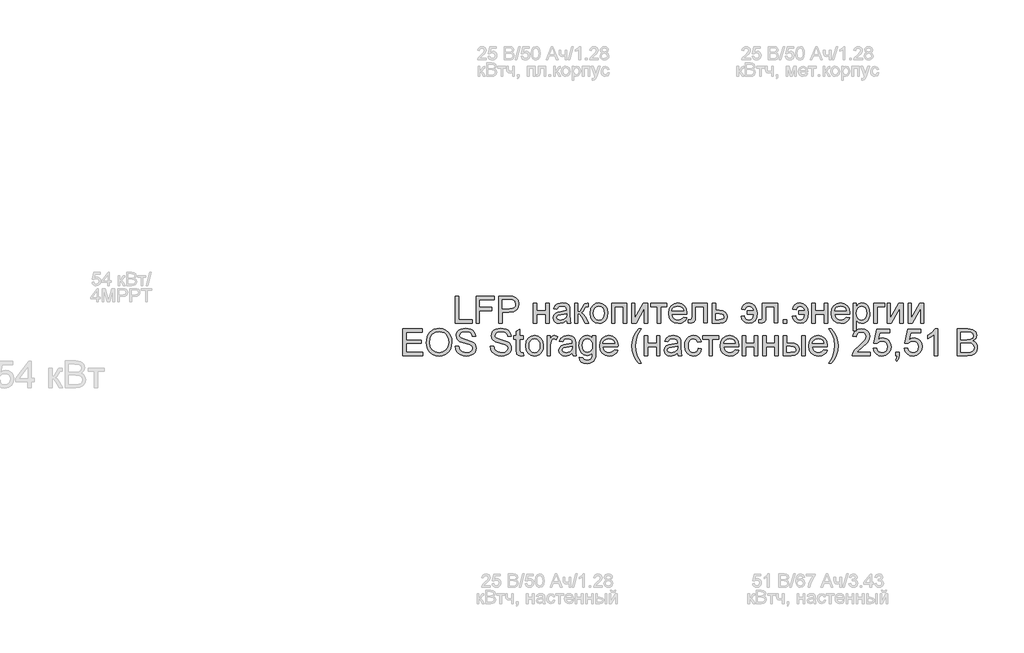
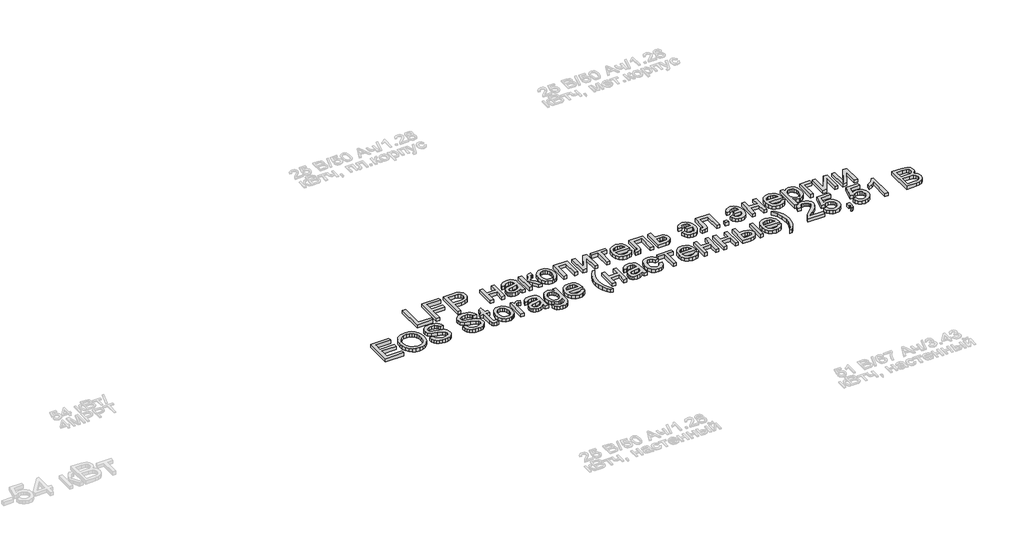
# One storey, part 15 of 26: 1 proxy.
"""IFC4 building model written with IfcOpenShell, lengths in millimetres."""

import ifcopenshell
import ifcopenshell.guid

model = None  # the IFC model being written
_history = None  # IfcOwnerHistory: only IFC2X3 demands one
_inside = {}  # id of a spatial element -> (the spatial element, [elements in it])
_under = {}  # id of a project, library or spatial element -> (it, [spatial elements below it])
_declared = {}  # id of a project -> (the project, [libraries it declares])
_typed = {}  # id of a type object -> (the type object, [elements of that type])
_made_of = {}  # id of a material, layer set ... -> (it, [elements and type objects made of it])


def new_model(schema):
    """Start an empty IFC model of exactly this schema.

    Asked for "IFC4X3", IfcOpenShell would pick the latest addendum, in which some entities
    have other attributes; the version numbers below select the first issue.
    IFC2X3 requires an IfcOwnerHistory on every rooted entity: one is made here for all.
    """
    global model, _history
    if schema == "IFC4X3":
        model = ifcopenshell.file(schema_version=(4, 3, 0, 0))
    else:
        model = ifcopenshell.file(schema=schema)
    _inside.clear()
    _under.clear()
    _declared.clear()
    _typed.clear()
    _made_of.clear()
    _history = None
    if model.schema == "IFC2X3":
        org = make("IfcOrganization", Name="unknown")
        user = make(
            "IfcPersonAndOrganization",
            ThePerson=make("IfcPerson", FamilyName="unknown"),
            TheOrganization=org,
        )
        app = make(
            "IfcApplication",
            ApplicationDeveloper=org,
            Version="unknown",
            ApplicationFullName="unknown",
            ApplicationIdentifier="unknown",
        )
        _history = make(
            "IfcOwnerHistory",
            OwningUser=user,
            OwningApplication=app,
            ChangeAction="ADDED",
            CreationDate=0,
        )
    return model


def make(cls, **values):
    """One entity of the class cls with the attributes given. An attribute that is None is left unset."""
    return model.create_entity(
        cls, **{name: value for name, value in values.items() if value is not None}
    )


def rooted(cls, **values):
    """An entity with a GlobalId (a new one), such as an element, a storey or a relation."""
    return make(cls, GlobalId=ifcopenshell.guid.new(), OwnerHistory=_history, **values)


def si_unit(unit_type, name, prefix=None):
    """IfcSIUnit, for example si_unit("LENGTHUNIT", "METRE", prefix="MILLI")."""
    return make("IfcSIUnit", UnitType=unit_type, Prefix=prefix, Name=name)


def assignment(units):
    """IfcUnitAssignment: the units of a project."""
    return None if units is None else make("IfcUnitAssignment", Units=units)


def point(xyz):
    """IfcCartesianPoint."""
    return None if xyz is None else make("IfcCartesianPoint", Coordinates=xyz)


def direction(xyz):
    """IfcDirection."""
    return None if xyz is None else make("IfcDirection", DirectionRatios=xyz)


def frame(location, z_axis=None, x_axis=None):
    """IfcAxis2Placement3D, a coordinate frame: its origin and axes. An axis left out is left unset."""
    return make(
        "IfcAxis2Placement3D",
        Location=point(location),
        Axis=direction(z_axis),
        RefDirection=direction(x_axis),
    )


def origin():
    """The frame at (0, 0, 0) with its axes left unset."""
    return frame((0.0, 0.0, 0.0))


def origin_with_axes():
    """The frame at (0, 0, 0) with the z axis (0, 0, 1) and the x axis (1, 0, 0) written out."""
    return frame((0.0, 0.0, 0.0), z_axis=(0.0, 0.0, 1.0), x_axis=(1.0, 0.0, 0.0))


def place(relative_to, where):
    """IfcLocalPlacement: puts the frame where relative to a parent placement (None: the world)."""
    return make(
        "IfcLocalPlacement", PlacementRelTo=relative_to, RelativePlacement=where
    )


def context(
    kind, dimensions, precision=None, world=None, true_north=None, identifier=None
):
    """IfcGeometricRepresentationContext, for example the 3D "Model" context."""
    return make(
        "IfcGeometricRepresentationContext",
        ContextIdentifier=identifier,
        ContextType=kind,
        CoordinateSpaceDimension=dimensions,
        Precision=precision,
        WorldCoordinateSystem=world,
        TrueNorth=true_north,
    )


def project(units=None, contexts=None):
    """IfcProject with its units and contexts."""
    return rooted(
        "IfcProject",
        Name="project",
        RepresentationContexts=contexts,
        UnitsInContext=assignment(units),
    )


def spatial(cls, under=None, at=None, **own):
    """A site, building, storey or space (cls), placed at a placement, below another one or the project."""
    s = rooted(cls, ObjectPlacement=at, **own)
    if under is not None:
        _under.setdefault(under.id(), (under, []))[1].append(s)
    return s


def polyline(points):
    """IfcPolyline through the points."""
    return make("IfcPolyline", Points=[point(p) for p in points])


def outline(outer, holes=None, kind="AREA"):
    """IfcArbitraryClosedProfileDef: a profile drawn as a closed curve; with holes, ...WithVoids."""
    if holes is None:
        return make("IfcArbitraryClosedProfileDef", ProfileType=kind, OuterCurve=outer)
    return make(
        "IfcArbitraryProfileDefWithVoids",
        ProfileType=kind,
        OuterCurve=outer,
        InnerCurves=holes,
    )


def extrude(swept, where, along, depth):
    """IfcExtrudedAreaSolid: the profile swept, set in the frame where, extruded along a direction by depth."""
    return make(
        "IfcExtrudedAreaSolid",
        SweptArea=swept,
        Position=where,
        ExtrudedDirection=direction(along),
        Depth=depth,
    )


def shape(context_of_items, identifier, shape_type, items):
    """IfcShapeRepresentation: the items that make up one representation, for example the "Body"."""
    return make(
        "IfcShapeRepresentation",
        ContextOfItems=context_of_items,
        RepresentationIdentifier=identifier,
        RepresentationType=shape_type,
        Items=items,
    )


def made_of(thing, what):
    """Note that an element or type object is made of a material, layer set ...; save() writes the relation."""
    if what is not None:
        _made_of.setdefault(what.id(), (what, []))[1].append(thing)
    return thing


def element(
    cls,
    number,
    at=None,
    inside=None,
    cuts=None,
    type_object=None,
    material=None,
    context=None,
    identifier="Body",
    shape_type=None,
    held_by="IfcProductDefinitionShape",
    body=None,
    shapes=None,
    **own,
):
    """One element of the class cls, such as IfcWall. Its Tag is "e" and its number.

    at: its placement. inside: the storey or other place that contains it. cuts: it is an
    opening in that element (IfcRelVoidsElement). A single representation is given by context,
    identifier, shape_type and body (its items); several are given by shapes. held_by: the class
    of the entity that holds the representations. save() writes the other relations.
    """
    e = rooted(cls, Tag="e%d" % number, ObjectPlacement=at, **own)
    if body is not None:
        shapes = [shape(context, identifier, shape_type, body)]
    if shapes is not None:
        e.Representation = make(held_by, Representations=shapes)
    if inside is not None:
        _inside.setdefault(inside.id(), (inside, []))[1].append(e)
    if cuts is not None:
        rooted(
            "IfcRelVoidsElement", RelatingBuildingElement=cuts, RelatedOpeningElement=e
        )
    if type_object is not None:
        _typed.setdefault(type_object.id(), (type_object, []))[1].append(e)
    return made_of(e, material)


def aggregate(whole, parts):
    """IfcRelAggregates: a whole, such as a stair, and the parts it consists of."""
    return rooted("IfcRelAggregates", RelatingObject=whole, RelatedObjects=parts)


def save(model, path):
    """Write the relations noted so far, then the file.

    IfcRelAggregates (storeys below a building ...), IfcRelContainedInSpatialStructure (elements
    in a storey), IfcRelDefinesByType, IfcRelAssociatesMaterial and IfcRelDeclares: one each for
    every whole, place, type object, material and project.
    """
    for whole, parts in _under.values():
        aggregate(whole, parts)
    for where, things in _inside.values():
        rooted(
            "IfcRelContainedInSpatialStructure",
            RelatedElements=things,
            RelatingStructure=where,
        )
    for kind, things in _typed.values():
        rooted("IfcRelDefinesByType", RelatedObjects=things, RelatingType=kind)
    for what, things in _made_of.values():
        rooted("IfcRelAssociatesMaterial", RelatedObjects=things, RelatingMaterial=what)
    for by, libraries in _declared.values():
        rooted("IfcRelDeclares", RelatingContext=by, RelatedDefinitions=libraries)
    model.write(path)


model = new_model("IFC4")

# Units and contexts
model_context = context("Model", 3, world=origin())
ifc_project = project(units=[si_unit("LENGTHUNIT", "METRE", prefix="MILLI")], contexts=[model_context])

# Site, building, storey
site = spatial("IfcSite", under=ifc_project)
building = spatial("IfcBuilding", under=site)
storey = spatial("IfcBuildingStorey", under=building, Name="Этаж 01", Elevation=0.0)

# Proxy
placement = place(None, origin())
element("IfcBuildingElementProxy", 1, Name="150 мм Arial", ObjectType="150 мм Arial", at=placement, inside=storey, context=model_context, shape_type="SweptSolid", body=[
    extrude(outline(polyline([(14247.5390032, -16871.2706711), (14247.5390032, -16720.5862059), (14266.3745613, -16720.5862059), (14266.3745613, -16852.4351129), (14341.7167939, -16852.4351129), (14341.7167939, -16871.2706711), (14247.5390032, -16871.2706711)])), origin_with_axes(), (0.0, 0.0, 1.0), 20.0),
    extrude(outline(polyline([(14362.9067968, -16871.2706711), (14362.9067968, -16720.5862059), (14464.1479219, -16720.5862059), (14464.1479219, -16739.421764), (14381.742355, -16739.421764), (14381.742355, -16784.1562146), (14452.3756981, -16784.1562146), (14452.3756981, -16802.9917728), (14381.742355, -16802.9917728), (14381.742355, -16871.2706711), (14362.9067968, -16871.2706711)])), origin_with_axes(), (0.0, 0.0, 1.0), 20.0),
    extrude(outline(polyline([(14490.0468144, -16871.2706711), (14490.0468144, -16720.5862059), (14545.8913012, -16720.5862059), (14568.4056793, -16722.0209456), (14586.7078086, -16729.0658858), (14598.5720029, -16743.6340129), (14603.0601633, -16764.1802223), (14600.0297354, -16781.9397256), (14590.9384515, -16796.7377789), (14573.9377048, -16806.725775), (14547.1788882, -16810.0551071), (14508.8823725, -16810.0551071), (14508.8823725, -16871.2706711), (14490.0468144, -16871.2706711)]), holes=[polyline([(14508.8823725, -16791.2195489), (14548.2825342, -16791.2195489), (14564.9843768, -16789.4905036), (14576.0208366, -16784.3033674), (14582.173663, -16775.9800373), (14584.2246051, -16764.8424099), (14579.3869569, -16749.2442133), (14566.676634, -16740.709351), (14547.8410758, -16739.421764), (14508.8823725, -16739.421764), (14508.8823725, -16791.2195489)])]), origin_with_axes(), (0.0, 0.0, 1.0), 20.0),
    extrude(outline(polyline([(14685.4657302, -16760.6117669), (14704.3012884, -16760.6117669), (14704.3012884, -16802.9917728), (14753.7446285, -16802.9917728), (14753.7446285, -16760.6117669), (14772.5801867, -16760.6117669), (14772.5801867, -16871.2706711), (14753.7446285, -16871.2706711), (14753.7446285, -16821.8273309), (14704.3012884, -16821.8273309), (14704.3012884, -16871.2706711), (14685.4657302, -16871.2706711), (14685.4657302, -16760.6117669)])), origin_with_axes(), (0.0, 0.0, 1.0), 20.0),
    extrude(outline(polyline([(14871.466867, -16857.1440025), (14853.2015259, -16869.9095077), (14833.0231985, -16873.6251159), (14817.2824476, -16871.3902327), (14805.6711721, -16864.6855834), (14798.5112688, -16854.5044492), (14796.1246344, -16841.8401115), (14799.7298779, -16826.9408907), (14809.2028393, -16816.12516), (14822.3914088, -16809.9447425), (14838.6885812, -16807.1120511), (14871.3565024, -16800.637328), (14871.466867, -16796.4434733), (14870.1700829, -16788.0373697), (14866.2797308, -16782.5375338), (14857.5793217, -16778.4540437), (14845.4576099, -16777.0928803), (14826.4013226, -16780.716518), (14817.3146373, -16793.5739937), (14798.4790791, -16791.2195489), (14806.6276653, -16772.8254492), (14823.0352023, -16762.0465067), (14847.8856311, -16758.2573222), (14870.7127089, -16761.6050483), (14883.6069728, -16770.0111519), (14889.3827201, -16782.7950512), (14890.3024251, -16799.2761646), (14890.3024251, -16822.7102477), (14891.2589183, -16855.4333512), (14895.0113147, -16871.2706711), (14876.1757565, -16871.2706711), (14871.466867, -16857.1440025)]), holes=[polyline([(14871.466867, -16819.4728862), (14841.0798142, -16825.2486335), (14824.8746123, -16828.302054), (14817.5353665, -16833.268461), (14814.9601925, -16840.5157363), (14820.5703929, -16850.7060676), (14837.0331122, -16854.7895577), (14856.0893996, -16850.2830033), (14868.3766582, -16839.3753021), (14871.3565024, -16824.8071751), (14871.466867, -16819.4728862)])]), origin_with_axes(), (0.0, 0.0, 1.0), 20.0),
    extrude(outline(polyline([(14916.2013176, -16760.6117669), (14935.0368757, -16760.6117669), (14935.0368757, -16807.7006623), (14947.6552282, -16804.316148), (14957.9927122, -16784.597673), (14966.5827568, -16767.5831307), (14974.1611259, -16762.0465067), (14987.9383066, -16760.6117669), (14991.5435502, -16760.6117669), (14991.5435502, -16779.5576897), (14986.4667787, -16779.4473251), (14977.2697288, -16781.4338879), (14970.7950057, -16793.8315111), (14963.1982425, -16807.2408098), (14952.5480587, -16813.8075034), (14964.4306472, -16821.1375522), (14976.0925064, -16836.5793989), (14996.2524397, -16871.2706711), (14974.8417076, -16871.2706711), (14955.0864445, -16837.3151629), (14945.1536306, -16822.949371), (14935.0368757, -16819.4728862), (14935.0368757, -16871.2706711), (14916.2013176, -16871.2706711), (14916.2013176, -16760.6117669)])), origin_with_axes(), (0.0, 0.0, 1.0), 20.0),
    extrude(outline(polyline([(15003.315774, -16815.941219), (15007.3900671, -16789.2605773), (15019.6129464, -16770.5077926), (15034.7145023, -16761.3199398), (15052.7959024, -16758.2573222), (15072.5833552, -16761.9867259), (15088.3884854, -16773.1749371), (15098.7489621, -16790.9390389), (15102.2024543, -16814.3961146), (15100.6757441, -16833.4248108), (15096.0956132, -16847.9101644), (15088.595419, -16858.7580847), (15078.3085188, -16866.8744812), (15066.090238, -16871.9374572), (15052.7959024, -16873.6251159), (15032.7693263, -16869.9095077), (15016.9825902, -16858.7626832), (15006.7324781, -16840.6261009), (15003.315774, -16815.941219)]), holes=[polyline([(15022.1513322, -16815.9044308), (15024.331033, -16832.9511628), (15030.8701355, -16845.0958671), (15040.7109789, -16852.3661351), (15052.7959024, -16854.7895577), (15064.8256436, -16852.3523395), (15074.6480929, -16845.0406848), (15081.1871954, -16832.7350321), (15083.3668962, -16815.3158196), (15081.1733998, -16798.7657284), (15074.5929106, -16786.7865709), (15064.7566658, -16779.516303), (15052.7959024, -16777.0928803), (15040.7109789, -16779.5071059), (15030.8701355, -16786.7497827), (15024.331033, -16798.8668959), (15022.1513322, -16815.9044308)])]), origin_with_axes(), (0.0, 0.0, 1.0), 20.0),
    extrude(outline(polyline([(15123.3924573, -16760.6117669), (15208.152469, -16760.6117669), (15208.152469, -16871.2706711), (15189.3169108, -16871.2706711), (15189.3169108, -16779.4473251), (15142.2280154, -16779.4473251), (15142.2280154, -16871.2706711), (15123.3924573, -16871.2706711), (15123.3924573, -16760.6117669)])), origin_with_axes(), (0.0, 0.0, 1.0), 20.0),
    extrude(outline(polyline([(15236.4058062, -16760.6117669), (15255.2413643, -16760.6117669), (15255.2413643, -16845.0038966), (15301.5209193, -16760.6117669), (15325.8747074, -16760.6117669), (15325.8747074, -16871.2706711), (15307.0391493, -16871.2706711), (15307.0391493, -16787.3935762), (15261.0538999, -16871.2706711), (15236.4058062, -16871.2706711), (15236.4058062, -16760.6117669)])), origin_with_axes(), (0.0, 0.0, 1.0), 20.0),
    extrude(outline(polyline([(15344.7102656, -16760.6117669), (15434.1791668, -16760.6117669), (15434.1791668, -16779.4473251), (15398.8624953, -16779.4473251), (15398.8624953, -16871.2706711), (15380.0269371, -16871.2706711), (15380.0269371, -16779.4473251), (15344.7102656, -16779.4473251), (15344.7102656, -16760.6117669)])), origin_with_axes(), (0.0, 0.0, 1.0), 20.0),
    extrude(outline(polyline([(15528.1362284, -16838.3084443), (15546.6039045, -16840.6628891), (15539.9498389, -16854.5780256), (15529.3318448, -16864.979889), (15514.9890456, -16871.4638091), (15497.1605644, -16873.6251159), (15475.0600535, -16869.8957121), (15458.0547083, -16858.7075009), (15447.2113865, -16840.7870493), (15443.5969459, -16816.860924), (15447.2481747, -16792.1300569), (15458.2018611, -16773.6347896), (15474.9772801, -16762.101689), (15496.0937066, -16758.2573222), (15516.552544, -16762.092492), (15532.9003002, -16773.5980014), (15543.6194618, -16792.0564805), (15547.1925157, -16816.7505594), (15547.0821511, -16821.8273309), (15462.432504, -16821.8273309), (15465.6928582, -16835.9264084), (15473.2666288, -16846.2914836), (15484.1973226, -16852.6650392), (15497.5284464, -16854.7895577), (15515.9961225, -16850.8532203), (15528.1362284, -16838.3084443)]), holes=[polyline([(15462.432504, -16802.9917728), (15528.3569576, -16802.9917728), (15525.8093747, -16793.0405648), (15520.8153767, -16785.9220482), (15509.8340991, -16779.3001723), (15496.0201302, -16777.0928803), (15483.3236028, -16778.8541154), (15472.8251704, -16784.1378205), (15465.5273113, -16792.3737787), (15462.432504, -16802.9917728)])]), origin_with_axes(), (0.0, 0.0, 1.0), 20.0),
    extrude(outline(polyline([(15575.4458529, -16760.6117669), (15660.2058646, -16760.6117669), (15660.2058646, -16871.1603065), (15641.3703065, -16871.1603065), (15641.3703065, -16779.4473251), (15594.2814111, -16779.4473251), (15594.2814111, -16832.2383914), (15593.0122182, -16856.5921795), (15586.0408544, -16866.8744812), (15569.559741, -16871.2706711), (15554.25585, -16870.3141779), (15554.25585, -16852.4351129), (15562.6803477, -16852.4351129), (15571.1968159, -16851.2762846), (15574.5997244, -16847.5974647), (15575.4458529, -16831.1715336), (15575.4458529, -16760.6117669)])), origin_with_axes(), (0.0, 0.0, 1.0), 20.0),
    extrude(outline(polyline([(15688.4592019, -16760.6117669), (15707.29476, -16760.6117669), (15707.29476, -16800.637328), (15728.9997977, -16800.637328), (15747.8169618, -16802.9963713), (15761.7412953, -16810.0735012), (15770.349734, -16821.2985006), (15773.2192135, -16836.1011523), (15770.7773968, -16849.5794289), (15763.4519466, -16860.9515811), (15750.7554192, -16868.6908986), (15732.2003711, -16871.2706711), (15688.4592019, -16871.2706711), (15688.4592019, -16760.6117669)]), holes=[polyline([(15707.29476, -16852.4351129), (15724.8795194, -16852.4351129), (15747.5962326, -16848.4803815), (15752.6867997, -16843.4174055), (15754.3836554, -16836.1379405), (15749.3620662, -16824.5496577), (15741.2916549, -16820.742079), (15727.1235996, -16819.4728862), (15707.29476, -16819.4728862), (15707.29476, -16852.4351129)])]), origin_with_axes(), (0.0, 0.0, 1.0), 20.0),
    extrude(outline(polyline([(15886.2325625, -16802.9917728), (15921.549234, -16802.9917728), (15918.6475648, -16792.5577197), (15913.0327658, -16784.2849733), (15905.0727191, -16778.8909036), (15895.1353067, -16777.0928803), (15879.8682039, -16781.8017699), (15872.1058939, -16795.9284385), (15853.2703357, -16793.5739937), (15857.661927, -16779.4335295), (15866.2013878, -16768.1349537), (15878.4564568, -16760.7267301), (15893.9948726, -16758.2573222), (15913.2213053, -16762.101689), (15927.9319866, -16773.6347896), (15937.2715908, -16791.9001306), (15940.3847922, -16815.941219), (15937.8142167, -16839.8719428), (15928.925268, -16858.6891068), (15914.3985277, -16870.5533012), (15894.9145776, -16873.6251159), (15878.212735, -16870.8705994), (15865.0425595, -16862.6070501), (15855.8087215, -16849.8461434), (15850.9158909, -16833.5995548), (15869.7514491, -16831.24511), (15872.7266947, -16841.5458059), (15877.8632471, -16848.9034458), (15885.1611062, -16853.3180297), (15894.620272, -16854.7895577), (15905.2612587, -16852.7294185), (15913.2718891, -16846.549001), (15918.6889515, -16836.2483051), (15921.549234, -16821.8273309), (15886.2325625, -16821.8273309), (15886.2325625, -16802.9917728)])), origin_with_axes(), (0.0, 0.0, 1.0), 20.0),
    extrude(outline(polyline([(15970.9925742, -16760.6117669), (16055.7525858, -16760.6117669), (16055.7525858, -16871.1603065), (16036.9170277, -16871.1603065), (16036.9170277, -16779.4473251), (15989.8281323, -16779.4473251), (15989.8281323, -16832.2383914), (15988.5589394, -16856.5921795), (15981.5875756, -16866.8744812), (15965.1064622, -16871.2706711), (15949.8025712, -16870.3141779), (15949.8025712, -16852.4351129), (15958.2270689, -16852.4351129), (15966.7435371, -16851.2762846), (15970.1464456, -16847.5974647), (15970.9925742, -16831.1715336), (15970.9925742, -16760.6117669)])), origin_with_axes(), (0.0, 0.0, 1.0), 20.0),
    extrude(outline(polyline([(16088.7148126, -16871.2706711), (16088.7148126, -16852.4351129), (16107.5503708, -16852.4351129), (16107.5503708, -16871.2706711), (16088.7148126, -16871.2706711)])), origin_with_axes(), (0.0, 0.0, 1.0), 20.0),
    extrude(outline(polyline([(16173.4748243, -16802.9917728), (16208.7914958, -16802.9917728), (16205.8898266, -16792.5577197), (16200.2750276, -16784.2849733), (16192.314981, -16778.8909036), (16182.3775686, -16777.0928803), (16167.1104658, -16781.8017699), (16159.3481557, -16795.9284385), (16140.5125975, -16793.5739937), (16144.9041888, -16779.4335295), (16153.4436497, -16768.1349537), (16165.6987186, -16760.7267301), (16181.2371344, -16758.2573222), (16200.4635672, -16762.101689), (16215.1742485, -16773.6347896), (16224.5138526, -16791.9001306), (16227.627054, -16815.941219), (16225.0564785, -16839.8719428), (16216.1675298, -16858.6891068), (16201.6407896, -16870.5533012), (16182.1568394, -16873.6251159), (16165.4549968, -16870.8705994), (16152.2848214, -16862.6070501), (16143.0509833, -16849.8461434), (16138.1581528, -16833.5995548), (16156.9937109, -16831.24511), (16159.9689566, -16841.5458059), (16165.1055089, -16848.9034458), (16172.403368, -16853.3180297), (16181.8625338, -16854.7895577), (16192.5035205, -16852.7294185), (16200.5141509, -16846.549001), (16205.9312133, -16836.2483051), (16208.7914958, -16821.8273309), (16173.4748243, -16821.8273309), (16173.4748243, -16802.9917728)])), origin_with_axes(), (0.0, 0.0, 1.0), 20.0),
    extrude(outline(polyline([(16248.8170569, -16760.6117669), (16267.6526151, -16760.6117669), (16267.6526151, -16802.9917728), (16317.0959552, -16802.9917728), (16317.0959552, -16760.6117669), (16335.9315134, -16760.6117669), (16335.9315134, -16871.2706711), (16317.0959552, -16871.2706711), (16317.0959552, -16821.8273309), (16267.6526151, -16821.8273309), (16267.6526151, -16871.2706711), (16248.8170569, -16871.2706711), (16248.8170569, -16760.6117669)])), origin_with_axes(), (0.0, 0.0, 1.0), 20.0),
    extrude(outline(polyline([(16441.6607988, -16838.3084443), (16460.1284749, -16840.6628891), (16453.4744094, -16854.5780256), (16442.8564153, -16864.979889), (16428.513616, -16871.4638091), (16410.6851348, -16873.6251159), (16388.5846239, -16869.8957121), (16371.5792787, -16858.7075009), (16360.7359569, -16840.7870493), (16357.1215163, -16816.860924), (16360.7727451, -16792.1300569), (16371.7264315, -16773.6347896), (16388.5018505, -16762.101689), (16409.618277, -16758.2573222), (16430.0771145, -16762.092492), (16446.4248706, -16773.5980014), (16457.1440323, -16792.0564805), (16460.7170861, -16816.7505594), (16460.6067215, -16821.8273309), (16375.9570744, -16821.8273309), (16379.2174286, -16835.9264084), (16386.7911992, -16846.2914836), (16397.721893, -16852.6650392), (16411.0530168, -16854.7895577), (16429.5206929, -16850.8532203), (16441.6607988, -16838.3084443)]), holes=[polyline([(16375.9570744, -16802.9917728), (16441.881528, -16802.9917728), (16439.3339452, -16793.0405648), (16434.3399471, -16785.9220482), (16423.3586695, -16779.3001723), (16409.5447006, -16777.0928803), (16396.8481732, -16778.8541154), (16386.3497408, -16784.1378205), (16379.0518817, -16792.3737787), (16375.9570744, -16802.9917728)])]), origin_with_axes(), (0.0, 0.0, 1.0), 20.0),
    extrude(outline(polyline([(16479.5526443, -16913.6506769), (16479.5526443, -16760.6117669), (16498.3882024, -16760.6117669), (16498.3882024, -16779.0794431), (16511.4112251, -16763.4628524), (16528.9959844, -16758.2573222), (16541.7338985, -16760.078338), (16552.8715259, -16765.5413857), (16561.9398171, -16774.3153713), (16568.4697225, -16786.069201), (16573.7304351, -16815.0950904), (16572.2451115, -16831.2037233), (16567.7891408, -16845.6109019), (16560.5050773, -16857.5854609), (16550.5354753, -16866.3962346), (16538.9241998, -16871.8178955), (16526.7151161, -16873.6251159), (16510.3259732, -16868.7874676), (16498.3882024, -16856.5553913), (16498.3882024, -16913.6506769), (16479.5526443, -16913.6506769)]), holes=[polyline([(16498.3882024, -16816.8241358), (16500.425349, -16833.7099194), (16506.5367886, -16845.5189314), (16515.554496, -16852.4719011), (16526.3104459, -16854.7895577), (16537.2411397, -16852.3891277), (16546.4887733, -16845.1878376), (16552.793351, -16832.9465642), (16554.8948769, -16815.4261842), (16552.8439348, -16798.6323711), (16546.6911084, -16786.6578122), (16537.6871966, -16779.4841133), (16527.0829981, -16777.0928803), (16516.4374128, -16779.6358646), (16507.0886116, -16787.2648175), (16500.5633047, -16799.7406156), (16498.3882024, -16816.8241358)])]), origin_with_axes(), (0.0, 0.0, 1.0), 20.0),
    extrude(outline(polyline([(16594.920438, -16760.6117669), (16656.136002, -16760.6117669), (16656.136002, -16779.4473251), (16613.7559961, -16779.4473251), (16613.7559961, -16871.2706711), (16594.920438, -16871.2706711), (16594.920438, -16760.6117669)])), origin_with_axes(), (0.0, 0.0, 1.0), 20.0),
    extrude(outline(polyline([(16670.2626706, -16760.6117669), (16689.0982287, -16760.6117669), (16689.0982287, -16845.0038966), (16735.3777837, -16760.6117669), (16759.7315718, -16760.6117669), (16759.7315718, -16871.2706711), (16740.8960137, -16871.2706711), (16740.8960137, -16787.3935762), (16694.9107643, -16871.2706711), (16670.2626706, -16871.2706711), (16670.2626706, -16760.6117669)])), origin_with_axes(), (0.0, 0.0, 1.0), 20.0),
    extrude(outline(polyline([(16787.984909, -16760.6117669), (16806.8204672, -16760.6117669), (16806.8204672, -16845.0038966), (16853.1000222, -16760.6117669), (16877.4538103, -16760.6117669), (16877.4538103, -16871.2706711), (16858.6182521, -16871.2706711), (16858.6182521, -16787.3935762), (16812.6330027, -16871.2706711), (16787.984909, -16871.2706711), (16787.984909, -16760.6117669)])), origin_with_axes(), (0.0, 0.0, 1.0), 20.0),
    extrude(outline(polyline([(13952.0561846, -17054.2328978), (13952.0561846, -16903.5484326), (14060.360644, -16903.5484326), (14060.360644, -16922.3839908), (13970.8917428, -16922.3839908), (13970.8917428, -16967.1184414), (14055.6517545, -16967.1184414), (14055.6517545, -16985.9539995), (13970.8917428, -16985.9539995), (13970.8917428, -17035.3973397), (14062.7150888, -17035.3973397), (14062.7150888, -17054.2328978), (13952.0561846, -17054.2328978)])), origin_with_axes(), (0.0, 0.0, 1.0), 20.0),
    extrude(outline(polyline([(14083.9050917, -16980.877228), (14088.9266809, -16947.5563163), (14095.2036675, -16933.9377847), (14103.9914486, -16922.3472026), (14126.9932704, -16906.4822915), (14155.8260218, -16901.1939879), (14175.5904819, -16903.6771913), (14193.3131971, -16911.1268017), (14208.0284769, -16923.0185872), (14218.7706311, -16938.828316), (14225.3373247, -16957.7926328), (14227.5262226, -16979.1481826), (14225.2223616, -17000.788841), (14218.3107786, -17020.0198723), (14207.1731512, -17035.8571922), (14192.191157, -17047.3167163), (14174.6201932, -17054.269686), (14155.7156572, -17056.5873426), (14135.6476943, -17054.0259642), (14117.8238117, -17046.3418291), (14103.14532, -17034.2293144), (14092.5135304, -17018.3827974), (14086.0572014, -17000.149646), (14083.9050917, -16980.877228)]), holes=[polyline([(14102.7406498, -16981.061169), (14106.5068418, -17004.6332078), (14117.8054176, -17022.5950463), (14134.7877702, -17033.9625999), (14155.6052926, -17037.7517845), (14176.7263176, -17033.9258117), (14193.7362614, -17022.4478935), (14204.9520637, -17003.9342321), (14208.6906645, -16979.0010298), (14207.0903778, -16962.3267784), (14202.2895177, -16947.9150012), (14194.4122445, -16936.1289818), (14183.5827183, -16927.3320036), (14170.5183089, -16921.8551604), (14155.9363864, -16920.029546), (14135.6752855, -16923.5474176), (14118.449211, -16934.1010323), (14106.6677901, -16952.8768097), (14102.7406498, -16981.061169)])]), origin_with_axes(), (0.0, 0.0, 1.0), 20.0),
    extrude(outline(polyline([(14246.3617808, -17002.4351129), (14265.1973389, -17002.4351129), (14271.2673918, -17021.2890652), (14286.0930362, -17033.2084418), (14308.6809907, -17037.7517845), (14328.3626775, -17034.3120878), (14341.0730004, -17024.8575205), (14345.2484611, -17012.220774), (14342.1214641, -17000.4669443), (14329.3191707, -16991.9136879), (14301.8935679, -16984.7215949), (14272.3710378, -16975.4325745), (14256.3497769, -16961.4162705), (14251.0706703, -16942.6910769), (14252.7031467, -16931.6592156), (14257.6005757, -16921.3723153), (14265.6341988, -16912.653512), (14276.6752572, -16906.3259417), (14304.5975006, -16901.1939879), (14334.3959422, -16906.565065), (14345.8186782, -16913.1961379), (14354.26157, -16922.3472026), (14359.6050559, -16933.4480418), (14361.7295745, -16945.9284385), (14342.8940163, -16945.9284385), (14339.4359255, -16934.6896435), (14332.2254384, -16926.5778455), (14320.9590523, -16921.6666209), (14305.3332646, -16920.029546), (14289.3395949, -16921.6482268), (14278.3675143, -16926.5042691), (14272.0215499, -16933.6503769), (14269.9062285, -16942.1392539), (14271.4053476, -16949.3773322), (14275.902705, -16955.1990647), (14306.6576398, -16965.7204898), (14339.9877485, -16975.1750571), (14350.7253043, -16982.0084651), (14358.2163014, -16990.4421599), (14362.6170898, -17000.3841708), (14364.0840192, -17011.7425274), (14362.3963606, -17023.3538029), (14357.3333846, -17034.2752996), (14349.102025, -17043.6746846), (14337.9092153, -17050.7196248), (14324.4493328, -17055.1204132), (14309.4167547, -17056.5873426), (14290.9628742, -17055.00545), (14275.7739463, -17050.2597723), (14263.6752272, -17042.3319153), (14254.4919729, -17031.203485), (14248.5966639, -17017.6470334), (14246.3617808, -17002.4351129)])), origin_with_axes(), (0.0, 0.0, 1.0), 20.0),
    extrude(outline(polyline([(14444.1351414, -17002.4351129), (14462.9706995, -17002.4351129), (14469.0407524, -17021.2890652), (14483.8663969, -17033.2084418), (14506.4543514, -17037.7517845), (14526.1360381, -17034.3120878), (14538.846361, -17024.8575205), (14543.0218217, -17012.220774), (14539.8948247, -17000.4669443), (14527.0925313, -16991.9136879), (14499.6669285, -16984.7215949), (14470.1443984, -16975.4325745), (14454.1231375, -16961.4162705), (14448.8440309, -16942.6910769), (14450.4765073, -16931.6592156), (14455.3739363, -16921.3723153), (14463.4075594, -16912.653512), (14474.4486178, -16906.3259417), (14502.3708612, -16901.1939879), (14532.1693028, -16906.565065), (14543.5920388, -16913.1961379), (14552.0349306, -16922.3472026), (14557.3784165, -16933.4480418), (14559.5029351, -16945.9284385), (14540.6673769, -16945.9284385), (14537.2092862, -16934.6896435), (14529.998799, -16926.5778455), (14518.7324129, -16921.6666209), (14503.1066252, -16920.029546), (14487.1129555, -16921.6482268), (14476.140875, -16926.5042691), (14469.7949105, -16933.6503769), (14467.6795891, -16942.1392539), (14469.1787082, -16949.3773322), (14473.6760656, -16955.1990647), (14504.4310004, -16965.7204898), (14537.7611091, -16975.1750571), (14548.4986649, -16982.0084651), (14555.989662, -16990.4421599), (14560.3904504, -17000.3841708), (14561.8573798, -17011.7425274), (14560.1697212, -17023.3538029), (14555.1067452, -17034.2752996), (14546.8753856, -17043.6746846), (14535.6825759, -17050.7196248), (14522.2226934, -17055.1204132), (14507.1901153, -17056.5873426), (14488.7362348, -17055.00545), (14473.5473069, -17050.2597723), (14461.4485878, -17042.3319153), (14452.2653335, -17031.203485), (14446.3700245, -17017.6470334), (14444.1351414, -17002.4351129)])), origin_with_axes(), (0.0, 0.0, 1.0), 20.0),
    extrude(outline(polyline([(14627.7818334, -17038.5243367), (14630.1362781, -17054.7847208), (14616.0463977, -17056.5873426), (14600.2642601, -17053.4603457), (14592.3915854, -17045.2565772), (14590.1107171, -17023.8826332), (14590.1107171, -16962.4095519), (14575.9840484, -16962.4095519), (14575.9840484, -16943.5739937), (14590.1107171, -16943.5739937), (14590.1107171, -16916.6818199), (14608.9462752, -16905.6085718), (14608.9462752, -16943.5739937), (14627.7818334, -16943.5739937), (14627.7818334, -16962.4095519), (14608.9462752, -16962.4095519), (14608.9462752, -17023.3308103), (14609.9395566, -17033.0428949), (14613.1585241, -17036.4825916), (14619.5780649, -17037.7517845), (14627.7818334, -17038.5243367)])), origin_with_axes(), (0.0, 0.0, 1.0), 20.0),
    extrude(outline(polyline([(14641.908502, -16998.9034458), (14645.9827951, -16972.2228041), (14658.2056744, -16953.4700194), (14673.3072303, -16944.2821665), (14691.3886303, -16941.2195489), (14711.1760831, -16944.9489527), (14726.9812134, -16956.1371638), (14737.3416901, -16973.9012657), (14740.7951823, -16997.3583414), (14739.268472, -17016.3870376), (14734.6883412, -17030.8723912), (14727.188147, -17041.7203115), (14716.9012467, -17049.836708), (14704.6829659, -17054.899684), (14691.3886303, -17056.5873426), (14671.3620542, -17052.8717345), (14655.5753181, -17041.72491), (14645.325206, -17023.5883277), (14641.908502, -16998.9034458)]), holes=[polyline([(14660.7440601, -16998.8666576), (14662.923761, -17015.9133895), (14669.4628634, -17028.0580939), (14679.3037068, -17035.3283618), (14691.3886303, -17037.7517845), (14703.4183716, -17035.3145662), (14713.2408208, -17028.0029116), (14719.7799233, -17015.6972589), (14721.9596241, -16998.2780464), (14719.7661277, -16981.7279551), (14713.1856385, -16969.7487977), (14703.3493937, -16962.4785297), (14691.3886303, -16960.0551071), (14679.3037068, -16962.4693327), (14669.4628634, -16969.7120095), (14662.923761, -16981.8291227), (14660.7440601, -16998.8666576)])]), origin_with_axes(), (0.0, 0.0, 1.0), 20.0),
    extrude(outline(polyline([(14761.9851852, -17054.2328978), (14761.9851852, -16943.5739937), (14778.4662986, -16943.5739937), (14778.4662986, -16959.9447425), (14790.164946, -16944.8615807), (14801.9371699, -16941.2195489), (14820.8463044, -16947.0320845), (14814.5555223, -16963.917868), (14801.3117705, -16960.0551071), (14790.6615867, -16963.7707152), (14783.8741639, -16974.0714111), (14780.8207434, -16996.0707544), (14780.8207434, -17054.2328978), (14761.9851852, -17054.2328978)])), origin_with_axes(), (0.0, 0.0, 1.0), 20.0),
    extrude(outline(polyline([(14903.2518714, -17040.1062292), (14884.9865303, -17052.8717345), (14864.8082029, -17056.5873426), (14849.067452, -17054.3524595), (14837.4561765, -17047.6478101), (14830.2962732, -17037.4666759), (14827.9096387, -17024.8023382), (14831.5148823, -17009.9031174), (14840.9878437, -16999.0873868), (14854.1764132, -16992.9069693), (14870.4735856, -16990.0742779), (14903.1415068, -16983.5995548), (14903.2518714, -16979.4057), (14901.9550873, -16970.9995964), (14898.0647352, -16965.4997606), (14889.364326, -16961.4162705), (14877.2426143, -16960.0551071), (14858.1863269, -16963.6787447), (14849.0996417, -16976.5362205), (14830.2640835, -16974.1817757), (14838.4126697, -16955.7876759), (14854.8202067, -16945.0087335), (14879.6706355, -16941.2195489), (14902.4977133, -16944.5672751), (14915.3919772, -16952.9733787), (14921.1677245, -16965.757278), (14922.0874295, -16982.2383914), (14922.0874295, -17005.6724745), (14923.0439227, -17038.395578), (14926.796319, -17054.2328978), (14907.9607609, -17054.2328978), (14903.2518714, -17040.1062292)]), holes=[polyline([(14903.2518714, -17002.4351129), (14872.8648186, -17008.2108603), (14856.6596167, -17011.2642808), (14849.3203709, -17016.2306877), (14846.7451969, -17023.4779631), (14852.3553973, -17033.6682943), (14868.8181166, -17037.7517845), (14887.874404, -17033.24523), (14900.1616626, -17022.3375289), (14903.1415068, -17007.7694019), (14903.2518714, -17002.4351129)])]), origin_with_axes(), (0.0, 0.0, 1.0), 20.0),
    extrude(outline(polyline([(14943.2774324, -17063.6506769), (14962.1129906, -17066.0051217), (14968.2198317, -17075.9379356), (14986.5035669, -17080.1317903), (15005.7805834, -17075.3861126), (15014.9776333, -17062.0687843), (15016.2652203, -17040.1062292), (15003.0030743, -17050.7012307), (14986.8346607, -17054.2328978), (14967.4150898, -17050.1218166), (14952.9343348, -17037.7885727), (14943.9258244, -17019.7071726), (14940.9229877, -16998.3516228), (14946.3124589, -16969.1601865), (14952.9067437, -16957.3097877), (14961.9106555, -16948.5036124), (14973.0160932, -16943.0405648), (14985.9149557, -16941.2195489), (15002.7179658, -16945.3398273), (15016.2652203, -16957.7006623), (15016.2652203, -16943.5739937), (15035.1007784, -16943.5739937), (15035.1007784, -17039.1129478), (15033.8131914, -17061.172072), (15029.9504305, -17075.6988123), (15023.2963649, -17085.332722), (15013.634864, -17092.7133545), (15001.1774599, -17097.40385), (14986.1356849, -17098.9673485), (14968.6107063, -17096.764655), (14954.810533, -17090.1565747), (14945.9583725, -17079.1247133), (14943.2774324, -17063.6506769)]), holes=[polyline([(14959.7585458, -16997.0640358), (14961.7681012, -17014.340694), (14967.7967674, -17026.2186839), (14976.8604601, -17033.1026758), (14987.9750948, -17035.3973397), (14999.0069562, -17033.1164713), (15008.1166341, -17026.2738662), (15014.2280737, -17014.5476276), (15016.2652203, -16997.6158588), (15014.1682929, -16981.2864967), (15007.8775108, -16969.5280685), (14998.6344757, -16962.4233474), (14987.6807892, -16960.0551071), (14976.9248394, -16962.3865592), (14967.907132, -16969.3809157), (14961.7956924, -16980.9646), (14959.7585458, -16997.0640358)])]), origin_with_axes(), (0.0, 0.0, 1.0), 20.0),
    extrude(outline(polyline([(15140.8300638, -17021.2706711), (15159.29774, -17023.6251159), (15152.6436744, -17037.5402523), (15142.0256803, -17047.9421157), (15127.682881, -17054.4260359), (15109.8543998, -17056.5873426), (15087.753889, -17052.8579389), (15070.7485438, -17041.6697277), (15059.9052219, -17023.749276), (15056.2907813, -16999.8231508), (15059.9420101, -16975.0922836), (15070.8956966, -16956.5970163), (15087.6711155, -16945.0639158), (15108.7875421, -16941.2195489), (15129.2463795, -16945.0547187), (15145.5941357, -16956.5602281), (15156.3132973, -16975.0187072), (15159.8863512, -16999.7127862), (15159.7759866, -17004.7895577), (15075.1263395, -17004.7895577), (15078.3866937, -17018.8886352), (15085.9604643, -17029.2537104), (15096.891158, -17035.6272659), (15110.2222818, -17037.7517845), (15128.689958, -17033.8154471), (15140.8300638, -17021.2706711)]), holes=[polyline([(15075.1263395, -16985.9539995), (15141.050793, -16985.9539995), (15138.5032102, -16976.0027916), (15133.5092121, -16968.884275), (15122.5279346, -16962.2623991), (15108.7139657, -16960.0551071), (15096.0174383, -16961.8163421), (15085.5190059, -16967.1000473), (15078.2211468, -16975.3360055), (15075.1263395, -16985.9539995)])]), origin_with_axes(), (0.0, 0.0, 1.0), 20.0),
    extrude(outline(polyline([(15275.2541449, -17096.6129037), (15260.6584267, -17076.1310736), (15248.5091238, -17052.4302761), (15240.3145524, -17026.6601423), (15237.5830286, -16999.9703036), (15239.6247736, -16976.5638116), (15245.7500089, -16954.1689952), (15257.9085088, -16928.8035316), (15275.2541449, -16903.5484326), (15289.3808135, -16903.5484326), (15271.7592659, -16933.3836624), (15261.1642645, -16962.2991873), (15256.4185867, -17000.0806682), (15258.4787259, -17024.2275226), (15264.6591434, -17048.36518), (15274.9598393, -17072.4936404), (15289.3808135, -17096.6129037), (15275.2541449, -17096.6129037)])), origin_with_axes(), (0.0, 0.0, 1.0), 20.0),
    extrude(outline(polyline([(15308.2163716, -16943.5739937), (15327.0519298, -16943.5739937), (15327.0519298, -16985.9539995), (15376.4952699, -16985.9539995), (15376.4952699, -16943.5739937), (15395.3308281, -16943.5739937), (15395.3308281, -17054.2328978), (15376.4952699, -17054.2328978), (15376.4952699, -17004.7895577), (15327.0519298, -17004.7895577), (15327.0519298, -17054.2328978), (15308.2163716, -17054.2328978), (15308.2163716, -16943.5739937)])), origin_with_axes(), (0.0, 0.0, 1.0), 20.0),
    extrude(outline(polyline([(15494.2175084, -17040.1062292), (15475.9521673, -17052.8717345), (15455.7738399, -17056.5873426), (15440.033089, -17054.3524595), (15428.4218136, -17047.6478101), (15421.2619102, -17037.4666759), (15418.8752758, -17024.8023382), (15422.4805193, -17009.9031174), (15431.9534807, -16999.0873868), (15445.1420502, -16992.9069693), (15461.4392226, -16990.0742779), (15494.1071438, -16983.5995548), (15494.2175084, -16979.4057), (15492.9207244, -16970.9995964), (15489.0303723, -16965.4997606), (15480.3299631, -16961.4162705), (15468.2082513, -16960.0551071), (15449.151964, -16963.6787447), (15440.0652787, -16976.5362205), (15421.2297206, -16974.1817757), (15429.3783068, -16955.7876759), (15445.7858437, -16945.0087335), (15470.6362725, -16941.2195489), (15493.4633503, -16944.5672751), (15506.3576142, -16952.9733787), (15512.1333616, -16965.757278), (15513.0530666, -16982.2383914), (15513.0530666, -17005.6724745), (15514.0095597, -17038.395578), (15517.7619561, -17054.2328978), (15498.9263979, -17054.2328978), (15494.2175084, -17040.1062292)]), holes=[polyline([(15494.2175084, -17002.4351129), (15463.8304556, -17008.2108603), (15447.6252537, -17011.2642808), (15440.2860079, -17016.2306877), (15437.7108339, -17023.4779631), (15443.3210344, -17033.6682943), (15459.7837537, -17037.7517845), (15478.840041, -17033.24523), (15491.1272996, -17022.3375289), (15494.1071438, -17007.7694019), (15494.2175084, -17002.4351129)])]), origin_with_axes(), (0.0, 0.0, 1.0), 20.0),
    extrude(outline(polyline([(15609.5853021, -17014.2073368), (15628.4208602, -17016.5617815), (15623.1693448, -17033.3142079), (15613.3009102, -17045.9739471), (15599.7444587, -17053.9339937), (15583.4288922, -17056.5873426), (15563.3931191, -17052.88553), (15547.7259446, -17041.7800923), (15537.6137883, -17023.7584731), (15534.2430695, -16999.308116), (15535.6824078, -16982.5464926), (15540.0004227, -16968.0197523), (15547.2660921, -16956.2889152), (15557.5483939, -16947.9150012), (15569.8494481, -16942.893412), (15583.1713748, -16941.2195489), (15599.0868697, -16943.5188114), (15611.8109882, -16950.4165988), (15620.9390602, -16961.5450292), (15626.0664155, -16976.5362205), (15607.2308573, -16978.8906652), (15598.4936599, -16964.7823907), (15583.3185276, -16960.0551071), (15571.1462321, -16962.3819607), (15561.4847312, -16969.3625216), (15555.1801535, -16981.3738687), (15553.0786276, -16998.7930812), (15555.1341683, -17016.4468184), (15561.3007902, -17028.4995523), (15570.7875472, -17035.4387264), (15582.8034928, -17037.7517845), (15592.5569642, -17036.3078476), (15600.5537991, -17031.9760371), (15606.3709332, -17024.6459884), (15609.5853021, -17014.2073368)])), origin_with_axes(), (0.0, 0.0, 1.0), 20.0),
    extrude(outline(polyline([(15635.4841946, -16943.5739937), (15724.9530958, -16943.5739937), (15724.9530958, -16962.4095519), (15689.6364242, -16962.4095519), (15689.6364242, -17054.2328978), (15670.8008661, -17054.2328978), (15670.8008661, -16962.4095519), (15635.4841946, -16962.4095519), (15635.4841946, -16943.5739937)])), origin_with_axes(), (0.0, 0.0, 1.0), 20.0),
    extrude(outline(polyline([(15818.9101573, -17021.2706711), (15837.3778335, -17023.6251159), (15830.7237679, -17037.5402523), (15820.1057738, -17047.9421157), (15805.7629745, -17054.4260359), (15787.9344934, -17056.5873426), (15765.8339825, -17052.8579389), (15748.8286373, -17041.6697277), (15737.9853155, -17023.749276), (15734.3708749, -16999.8231508), (15738.0221037, -16975.0922836), (15748.9757901, -16956.5970163), (15765.751209, -16945.0639158), (15786.8676356, -16941.2195489), (15807.326473, -16945.0547187), (15823.6742292, -16956.5602281), (15834.3933908, -16975.0187072), (15837.9664447, -16999.7127862), (15837.8560801, -17004.7895577), (15753.206433, -17004.7895577), (15756.4667872, -17018.8886352), (15764.0405578, -17029.2537104), (15774.9712515, -17035.6272659), (15788.3023754, -17037.7517845), (15806.7700515, -17033.8154471), (15818.9101573, -17021.2706711)]), holes=[polyline([(15753.206433, -16985.9539995), (15819.1308865, -16985.9539995), (15816.5833037, -16976.0027916), (15811.5893056, -16968.884275), (15800.6080281, -16962.2623991), (15786.7940592, -16960.0551071), (15774.0975318, -16961.8163421), (15763.5990994, -16967.1000473), (15756.3012403, -16975.3360055), (15753.206433, -16985.9539995)])]), origin_with_axes(), (0.0, 0.0, 1.0), 20.0),
    extrude(outline(polyline([(15856.8020029, -16943.5739937), (15875.637561, -16943.5739937), (15875.637561, -16985.9539995), (15925.0809012, -16985.9539995), (15925.0809012, -16943.5739937), (15943.9164593, -16943.5739937), (15943.9164593, -17054.2328978), (15925.0809012, -17054.2328978), (15925.0809012, -17004.7895577), (15875.637561, -17004.7895577), (15875.637561, -17054.2328978), (15856.8020029, -17054.2328978), (15856.8020029, -16943.5739937)])), origin_with_axes(), (0.0, 0.0, 1.0), 20.0),
    extrude(outline(polyline([(15972.1697965, -16943.5739937), (15991.0053547, -16943.5739937), (15991.0053547, -16985.9539995), (16040.4486948, -16985.9539995), (16040.4486948, -16943.5739937), (16059.284253, -16943.5739937), (16059.284253, -17054.2328978), (16040.4486948, -17054.2328978), (16040.4486948, -17004.7895577), (15991.0053547, -17004.7895577), (15991.0053547, -17054.2328978), (15972.1697965, -17054.2328978), (15972.1697965, -16943.5739937)])), origin_with_axes(), (0.0, 0.0, 1.0), 20.0),
    extrude(outline(polyline([(16191.1331601, -16943.5739937), (16209.9687182, -16943.5739937), (16209.9687182, -17054.2328978), (16191.1331601, -17054.2328978), (16191.1331601, -16943.5739937)])), origin_with_axes(), (0.0, 0.0, 1.0), 20.0),
    extrude(outline(polyline([(16087.5375902, -16943.5739937), (16106.3731484, -16943.5739937), (16106.3731484, -16983.5995548), (16129.6600787, -16983.5995548), (16149.7878223, -16985.9585981), (16164.7008387, -16993.035728), (16173.9300783, -17004.2607273), (16177.0064915, -17019.0633791), (16174.426719, -17032.5416557), (16166.6874015, -17043.9138079), (16153.2827013, -17051.6531254), (16133.7067806, -17054.2328978), (16087.5375902, -17054.2328978), (16087.5375902, -16943.5739937)]), holes=[polyline([(16106.3731484, -17035.3973397), (16125.7237413, -17035.3973397), (16150.7029288, -17031.4426082), (16156.3039322, -17026.3796323), (16158.1709333, -17019.1001673), (16152.6343093, -17007.5118845), (16143.7545576, -17003.7043058), (16128.1885507, -17002.4351129), (16106.3731484, -17002.4351129), (16106.3731484, -17035.3973397)])]), origin_with_axes(), (0.0, 0.0, 1.0), 20.0),
    extrude(outline(polyline([(16315.6980036, -17021.2706711), (16334.1656798, -17023.6251159), (16327.5116142, -17037.5402523), (16316.8936201, -17047.9421157), (16302.5508208, -17054.4260359), (16284.7223396, -17056.5873426), (16262.6218288, -17052.8579389), (16245.6164836, -17041.6697277), (16234.7731617, -17023.749276), (16231.1587211, -16999.8231508), (16234.8099499, -16975.0922836), (16245.7636364, -16956.5970163), (16262.5390553, -16945.0639158), (16283.6554819, -16941.2195489), (16304.1143193, -16945.0547187), (16320.4620755, -16956.5602281), (16331.1812371, -16975.0187072), (16334.754291, -16999.7127862), (16334.6439264, -17004.7895577), (16249.9942793, -17004.7895577), (16253.2546335, -17018.8886352), (16260.8284041, -17029.2537104), (16271.7590978, -17035.6272659), (16285.0902216, -17037.7517845), (16303.5578978, -17033.8154471), (16315.6980036, -17021.2706711)]), holes=[polyline([(16249.9942793, -16985.9539995), (16315.9187328, -16985.9539995), (16313.37115, -16976.0027916), (16308.3771519, -16968.884275), (16297.3958744, -16962.2623991), (16283.5819055, -16960.0551071), (16270.8853781, -16961.8163421), (16260.3869457, -16967.1000473), (16253.0890866, -16975.3360055), (16249.9942793, -16985.9539995)])]), origin_with_axes(), (0.0, 0.0, 1.0), 20.0),
    extrude(outline(polyline([(16358.2987387, -17096.6129037), (16344.1720701, -17096.6129037), (16358.5930443, -17072.4936404), (16368.8937401, -17048.36518), (16375.0741577, -17024.2275226), (16377.1342968, -17000.0806682), (16372.3886191, -16962.6302811), (16361.9039822, -16933.677968), (16344.1720701, -16903.5484326), (16358.2987387, -16903.5484326), (16375.6443747, -16928.8035316), (16387.8028747, -16954.1689952), (16393.9281099, -16976.5638116), (16395.969855, -16999.9703036), (16393.2245356, -17026.6601423), (16384.9885774, -17052.4302761), (16372.825479, -17076.1310736), (16358.2987387, -17096.6129037)])), origin_with_axes(), (0.0, 0.0, 1.0), 20.0),
    extrude(outline(polyline([(16574.9076574, -17035.3973397), (16574.9076574, -17054.2328978), (16476.0209771, -17054.2328978), (16478.0443281, -17041.2466634), (16489.4854582, -17021.252277), (16513.066694, -16999.4184806), (16545.5874624, -16968.0381464), (16551.6851065, -16957.2224157), (16553.7176545, -16946.7009907), (16551.8000696, -16937.269416), (16546.0473149, -16929.428931), (16537.2043515, -16924.1452258), (16526.0161403, -16922.3839908), (16514.2669091, -16924.1038391), (16505.1388371, -16929.2633841), (16499.2481266, -16937.4579555), (16497.2109801, -16948.2828832), (16478.3754219, -16945.9284385), (16482.9417572, -16927.7090827), (16492.8147902, -16914.4009515), (16507.4794862, -16906.2615623), (16526.4208105, -16903.5484326), (16545.5000904, -16906.565065), (16560.1371953, -16915.6149621), (16569.4492083, -16929.1346254), (16572.5532127, -16945.5605565), (16569.2054865, -16963.4212273), (16558.0770562, -16981.8889035), (16531.0929118, -17007.6958255), (16509.4246623, -17025.8140137), (16500.9265882, -17035.3973397), (16574.9076574, -17035.3973397)])), origin_with_axes(), (0.0, 0.0, 1.0), 20.0),
    extrude(outline(polyline([(16593.7432156, -17014.2073368), (16612.5787737, -17011.852892), (16616.0368645, -17023.1606648), (16622.0701292, -17031.2586673), (16630.6509768, -17036.1285052), (16641.751816, -17037.7517845), (16655.2530852, -17035.4939087), (16665.3698401, -17028.7202815), (16671.6882133, -17018.212652), (16673.7943377, -17004.7527695), (16671.8215705, -16992.0792348), (16665.9032689, -16982.3855442), (16655.9934477, -16976.2327178), (16642.0461216, -16974.1817757), (16625.5098259, -16977.4559255), (16614.9332185, -16985.9539995), (16596.0976604, -16983.5995548), (16612.5787737, -16905.9028774), (16685.5665616, -16905.9028774), (16685.5665616, -16924.7384355), (16627.8090883, -16924.7384355), (16619.7524726, -16966.2355246), (16633.2077566, -16958.0685443), (16647.3068341, -16955.3462175), (16664.905389, -16958.7215349), (16679.5149028, -16968.8474868), (16689.3511476, -16984.2801365), (16692.6298959, -17003.5755471), (16689.6776429, -17022.4111053), (16680.8208838, -17038.5243367), (16663.8615239, -17052.0715911), (16641.6782396, -17056.5873426), (16623.1783737, -17053.6856734), (16608.4401013, -17044.9806657), (16598.337142, -17031.483995), (16593.7432156, -17014.2073368)])), origin_with_axes(), (0.0, 0.0, 1.0), 20.0),
    extrude(outline(polyline([(16718.5287884, -17054.2328978), (16718.5287884, -17035.3973397), (16737.3643465, -17035.3973397), (16737.3643465, -17054.2328978), (16733.9798322, -17073.4915203), (16723.2376779, -17084.8406798), (16718.5287884, -17077.7773455), (16725.4449699, -17069.6471534), (16727.9097792, -17054.2328978), (16718.5287884, -17054.2328978)])), origin_with_axes(), (0.0, 0.0, 1.0), 20.0),
    extrude(outline(polyline([(16767.9721285, -17014.2073368), (16786.8076867, -17011.852892), (16790.2657774, -17023.1606648), (16796.2990421, -17031.2586673), (16804.8798897, -17036.1285052), (16815.9807289, -17037.7517845), (16829.4819981, -17035.4939087), (16839.598753, -17028.7202815), (16845.9171262, -17018.212652), (16848.0232507, -17004.7527695), (16846.0504835, -16992.0792348), (16840.1321819, -16982.3855442), (16830.2223606, -16976.2327178), (16816.2750345, -16974.1817757), (16799.7387388, -16977.4559255), (16789.1621314, -16985.9539995), (16770.3265733, -16983.5995548), (16786.8076867, -16905.9028774), (16859.7954745, -16905.9028774), (16859.7954745, -16924.7384355), (16802.0380013, -16924.7384355), (16793.9813856, -16966.2355246), (16807.4366695, -16958.0685443), (16821.535747, -16955.3462175), (16839.1343019, -16958.7215349), (16853.7438157, -16968.8474868), (16863.5800605, -16984.2801365), (16866.8588088, -17003.5755471), (16863.9065558, -17022.4111053), (16855.0497968, -17038.5243367), (16838.0904368, -17052.0715911), (16815.9071525, -17056.5873426), (16797.4072866, -17053.6856734), (16782.6690142, -17044.9806657), (16772.5660549, -17031.483995), (16767.9721285, -17014.2073368)])), origin_with_axes(), (0.0, 0.0, 1.0), 20.0),
    extrude(outline(polyline([(16953.9732653, -17054.2328978), (16935.1377071, -17054.2328978), (16935.1377071, -16936.804965), (16917.2954303, -16949.5152879), (16897.4665908, -16959.0250375), (16897.4665908, -16941.2195489), (16925.0761345, -16923.5980014), (16941.8331594, -16903.5484326), (16953.9732653, -16903.5484326), (16953.9732653, -17054.2328978)])), origin_with_axes(), (0.0, 0.0, 1.0), 20.0),
    extrude(outline(polyline([(17064.6321694, -17054.2328978), (17064.6321694, -16903.5484326), (17122.1321253, -16903.5484326), (17150.293492, -16907.9814107), (17159.7572563, -16913.6054067), (17166.9217582, -16921.6114386), (17172.9366288, -16940.8884551), (17167.8782514, -16958.4916086), (17152.5927545, -16971.8273309), (17163.2659308, -16977.4007432), (17171.1524011, -16985.8804231), (17176.022239, -16996.7053509), (17177.6455183, -17009.3145062), (17173.2125403, -17029.5664101), (17162.2312627, -17043.9873843), (17145.8421199, -17051.6393298), (17121.6906669, -17054.2328978), (17064.6321694, -17054.2328978)]), holes=[polyline([(17083.4677276, -16964.7639966), (17117.8646941, -16964.7639966), (17137.9510511, -16963.1453158), (17150.0359746, -16956.173952), (17154.1010706, -16943.9050875), (17150.3118861, -16931.6178289), (17139.4593672, -16924.3521595), (17115.252732, -16922.3839908), (17083.4677276, -16922.3839908), (17083.4677276, -16964.7639966)]), polyline([(17083.4677276, -17035.3973397), (17122.0953371, -17035.3973397), (17136.0748529, -17034.6615757), (17147.902259, -17030.5596915), (17155.7381455, -17022.1903761), (17158.8099602, -17009.4984472), (17155.2047166, -16994.8567438), (17143.5244633, -16986.1195464), (17120.2559271, -16983.5995548), (17083.4677276, -16983.5995548), (17083.4677276, -17035.3973397)])]), origin_with_axes(), (0.0, 0.0, 1.0), 20.0),
])

save(model, "model.ifc")
